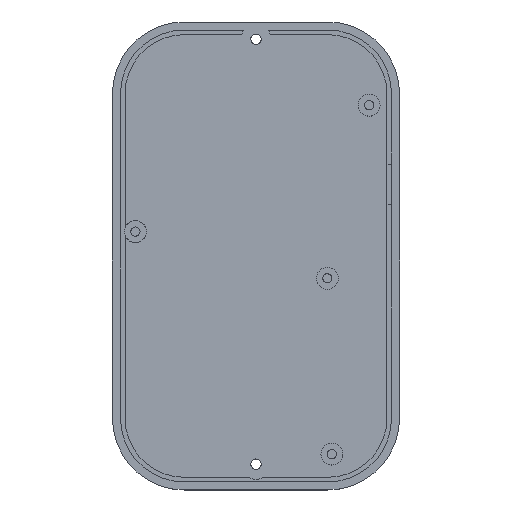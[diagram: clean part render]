
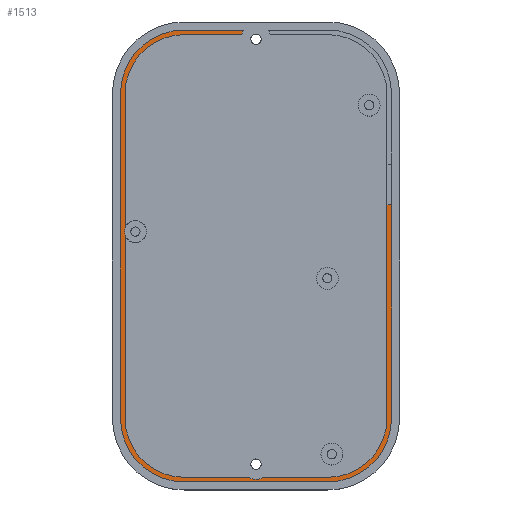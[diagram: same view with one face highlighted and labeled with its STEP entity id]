
A CAD part, top view. The second image highlights one B-rep face of the part: STEP entity #1513.
In plain terms, the highlighted planar face has unit normal (0, 0, 1).
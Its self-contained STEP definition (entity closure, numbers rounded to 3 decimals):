
#695 = VERTEX_POINT('',#696);
#696 = CARTESIAN_POINT('',(48.6,12.5,2.2));
#736 = VERTEX_POINT('',#737);
#737 = CARTESIAN_POINT('',(48.6,49.661,2.2));
#743 = EDGE_CURVE('',#695,#736,#744,.T.);
#744 = LINE('',#745,#746);
#745 = CARTESIAN_POINT('',(48.6,12.5,2.2));
#746 = VECTOR('',#747,1.);
#747 = DIRECTION('',(0.,1.,0.));
#881 = VERTEX_POINT('',#882);
#882 = CARTESIAN_POINT('',(47.8,12.5,2.2));
#915 = VERTEX_POINT('',#916);
#916 = CARTESIAN_POINT('',(47.8,49.661,2.2));
#922 = EDGE_CURVE('',#881,#915,#923,.T.);
#923 = LINE('',#924,#925);
#924 = CARTESIAN_POINT('',(47.8,26.625,2.2));
#925 = VECTOR('',#926,1.);
#926 = DIRECTION('',(0.,1.,0.));
#936 = EDGE_CURVE('',#881,#937,#939,.T.);
#937 = VERTEX_POINT('',#938);
#938 = CARTESIAN_POINT('',(37.5,2.2,2.2));
#939 = CIRCLE('',#940,10.3);
#940 = AXIS2_PLACEMENT_3D('',#941,#942,#943);
#941 = CARTESIAN_POINT('',(37.5,12.5,2.2));
#942 = DIRECTION('',(0.,0.,-1.));
#943 = DIRECTION('',(1.,0.,0.));
#964 = VERTEX_POINT('',#965);
#965 = CARTESIAN_POINT('',(26.316,2.2,2.2));
#971 = EDGE_CURVE('',#937,#964,#972,.T.);
#972 = LINE('',#973,#974);
#973 = CARTESIAN_POINT('',(18.75,2.2,2.2));
#974 = VECTOR('',#975,1.);
#975 = DIRECTION('',(-1.,0.,0.));
#987 = VERTEX_POINT('',#988);
#988 = CARTESIAN_POINT('',(23.684,2.2,2.2));
#994 = EDGE_CURVE('',#964,#987,#995,.T.);
#995 = CIRCLE('',#996,2.65);
#996 = AXIS2_PLACEMENT_3D('',#997,#998,#999);
#997 = CARTESIAN_POINT('',(25.,4.5,2.2));
#998 = DIRECTION('',(0.,0.,-1.));
#999 = DIRECTION('',(1.,0.,0.));
#1013 = VERTEX_POINT('',#1014);
#1014 = CARTESIAN_POINT('',(12.5,2.2,2.2));
#1020 = EDGE_CURVE('',#987,#1013,#1021,.T.);
#1021 = LINE('',#1022,#1023);
#1022 = CARTESIAN_POINT('',(18.75,2.2,2.2));
#1023 = VECTOR('',#1024,1.);
#1024 = DIRECTION('',(-1.,0.,0.));
#1037 = VERTEX_POINT('',#1038);
#1038 = CARTESIAN_POINT('',(2.2,12.5,2.2));
#1044 = EDGE_CURVE('',#1013,#1037,#1045,.T.);
#1045 = CIRCLE('',#1046,10.3);
#1046 = AXIS2_PLACEMENT_3D('',#1047,#1048,#1049);
#1047 = CARTESIAN_POINT('',(12.5,12.5,2.2));
#1048 = DIRECTION('',(0.,0.,-1.));
#1049 = DIRECTION('',(1.,0.,0.));
#1062 = VERTEX_POINT('',#1063);
#1063 = CARTESIAN_POINT('',(2.2,44.392,2.2));
#1069 = EDGE_CURVE('',#1037,#1062,#1070,.T.);
#1070 = LINE('',#1071,#1072);
#1071 = CARTESIAN_POINT('',(2.2,26.625,2.2));
#1072 = VECTOR('',#1073,1.);
#1073 = DIRECTION('',(0.,1.,0.));
#1102 = EDGE_CURVE('',#1062,#1103,#1105,.T.);
#1103 = VERTEX_POINT('',#1104);
#1104 = CARTESIAN_POINT('',(2.2,45.608,2.2));
#1105 = CIRCLE('',#1106,1.9);
#1106 = AXIS2_PLACEMENT_3D('',#1107,#1108,#1109);
#1107 = CARTESIAN_POINT('',(4.,45.,2.2));
#1108 = DIRECTION('',(0.,0.,-1.));
#1109 = DIRECTION('',(1.,0.,0.));
#1128 = VERTEX_POINT('',#1129);
#1129 = CARTESIAN_POINT('',(2.2,69.,2.2));
#1135 = EDGE_CURVE('',#1103,#1128,#1136,.T.);
#1136 = LINE('',#1137,#1138);
#1137 = CARTESIAN_POINT('',(2.2,26.625,2.2));
#1138 = VECTOR('',#1139,1.);
#1139 = DIRECTION('',(0.,1.,0.));
#1152 = VERTEX_POINT('',#1153);
#1153 = CARTESIAN_POINT('',(12.5,79.3,2.2));
#1159 = EDGE_CURVE('',#1128,#1152,#1160,.T.);
#1160 = CIRCLE('',#1161,10.3);
#1161 = AXIS2_PLACEMENT_3D('',#1162,#1163,#1164);
#1162 = CARTESIAN_POINT('',(12.5,69.,2.2));
#1163 = DIRECTION('',(0.,0.,-1.));
#1164 = DIRECTION('',(1.,0.,0.));
#1174 = EDGE_CURVE('',#1175,#1152,#1177,.T.);
#1175 = VERTEX_POINT('',#1176);
#1176 = CARTESIAN_POINT('',(22.474,79.3,2.2));
#1177 = LINE('',#1178,#1179);
#1178 = CARTESIAN_POINT('',(18.75,79.3,2.2));
#1179 = VECTOR('',#1180,1.);
#1180 = DIRECTION('',(-1.,0.,0.));
#1201 = VERTEX_POINT('',#1202);
#1202 = CARTESIAN_POINT('',(22.888,80.1,2.2));
#1208 = EDGE_CURVE('',#1175,#1201,#1209,.T.);
#1209 = CIRCLE('',#1210,2.65);
#1210 = AXIS2_PLACEMENT_3D('',#1211,#1212,#1213);
#1211 = CARTESIAN_POINT('',(25.,78.5,2.2));
#1212 = DIRECTION('',(0.,0.,-1.));
#1213 = DIRECTION('',(1.,0.,0.));
#1226 = VERTEX_POINT('',#1227);
#1227 = CARTESIAN_POINT('',(12.5,80.1,2.2));
#1233 = EDGE_CURVE('',#1226,#1201,#1234,.T.);
#1234 = LINE('',#1235,#1236);
#1235 = CARTESIAN_POINT('',(12.5,80.1,2.2));
#1236 = VECTOR('',#1237,1.);
#1237 = DIRECTION('',(1.,0.,0.));
#1249 = EDGE_CURVE('',#1226,#1250,#1252,.T.);
#1250 = VERTEX_POINT('',#1251);
#1251 = CARTESIAN_POINT('',(1.4,69.,2.2));
#1252 = CIRCLE('',#1253,11.1);
#1253 = AXIS2_PLACEMENT_3D('',#1254,#1255,#1256);
#1254 = CARTESIAN_POINT('',(12.5,69.,2.2));
#1255 = DIRECTION('',(0.,0.,1.));
#1256 = DIRECTION('',(1.,0.,0.));
#1273 = VERTEX_POINT('',#1274);
#1274 = CARTESIAN_POINT('',(1.4,12.5,2.2));
#1282 = EDGE_CURVE('',#1273,#1250,#1283,.T.);
#1283 = LINE('',#1284,#1285);
#1284 = CARTESIAN_POINT('',(1.4,12.5,2.2));
#1285 = VECTOR('',#1286,1.);
#1286 = DIRECTION('',(0.,1.,0.));
#1297 = VERTEX_POINT('',#1298);
#1298 = CARTESIAN_POINT('',(12.5,1.4,2.2));
#1306 = EDGE_CURVE('',#1273,#1297,#1307,.T.);
#1307 = CIRCLE('',#1308,11.1);
#1308 = AXIS2_PLACEMENT_3D('',#1309,#1310,#1311);
#1309 = CARTESIAN_POINT('',(12.5,12.5,2.2));
#1310 = DIRECTION('',(0.,0.,1.));
#1311 = DIRECTION('',(1.,0.,0.));
#1323 = EDGE_CURVE('',#1297,#1324,#1326,.T.);
#1324 = VERTEX_POINT('',#1325);
#1325 = CARTESIAN_POINT('',(37.5,1.4,2.2));
#1326 = LINE('',#1327,#1328);
#1327 = CARTESIAN_POINT('',(12.5,1.4,2.2));
#1328 = VECTOR('',#1329,1.);
#1329 = DIRECTION('',(1.,0.,0.));
#1345 = EDGE_CURVE('',#1324,#695,#1346,.T.);
#1346 = CIRCLE('',#1347,11.1);
#1347 = AXIS2_PLACEMENT_3D('',#1348,#1349,#1350);
#1348 = CARTESIAN_POINT('',(37.5,12.5,2.2));
#1349 = DIRECTION('',(0.,0.,1.));
#1350 = DIRECTION('',(1.,0.,0.));
#1513 = ADVANCED_FACE('',(#1514),#1541,.T.);
#1514 = FACE_BOUND('',#1515,.T.);
#1515 = EDGE_LOOP('',(#1516,#1517,#1518,#1519,#1520,#1521,#1527,#1528,
    #1529,#1530,#1531,#1532,#1533,#1534,#1535,#1536,#1537,#1538,#1539,
    #1540));
#1516 = ORIENTED_EDGE('',*,*,#1282,.F.);
#1517 = ORIENTED_EDGE('',*,*,#1306,.T.);
#1518 = ORIENTED_EDGE('',*,*,#1323,.T.);
#1519 = ORIENTED_EDGE('',*,*,#1345,.T.);
#1520 = ORIENTED_EDGE('',*,*,#743,.T.);
#1521 = ORIENTED_EDGE('',*,*,#1522,.T.);
#1522 = EDGE_CURVE('',#736,#915,#1523,.T.);
#1523 = LINE('',#1524,#1525);
#1524 = CARTESIAN_POINT('',(36.275,49.661,2.2));
#1525 = VECTOR('',#1526,1.);
#1526 = DIRECTION('',(-1.,0.,0.));
#1527 = ORIENTED_EDGE('',*,*,#922,.F.);
#1528 = ORIENTED_EDGE('',*,*,#936,.T.);
#1529 = ORIENTED_EDGE('',*,*,#971,.T.);
#1530 = ORIENTED_EDGE('',*,*,#994,.T.);
#1531 = ORIENTED_EDGE('',*,*,#1020,.T.);
#1532 = ORIENTED_EDGE('',*,*,#1044,.T.);
#1533 = ORIENTED_EDGE('',*,*,#1069,.T.);
#1534 = ORIENTED_EDGE('',*,*,#1102,.T.);
#1535 = ORIENTED_EDGE('',*,*,#1135,.T.);
#1536 = ORIENTED_EDGE('',*,*,#1159,.T.);
#1537 = ORIENTED_EDGE('',*,*,#1174,.F.);
#1538 = ORIENTED_EDGE('',*,*,#1208,.T.);
#1539 = ORIENTED_EDGE('',*,*,#1233,.F.);
#1540 = ORIENTED_EDGE('',*,*,#1249,.T.);
#1541 = PLANE('',#1542);
#1542 = AXIS2_PLACEMENT_3D('',#1543,#1544,#1545);
#1543 = CARTESIAN_POINT('',(25.,40.75,2.2));
#1544 = DIRECTION('',(0.,0.,1.));
#1545 = DIRECTION('',(1.,0.,0.));
